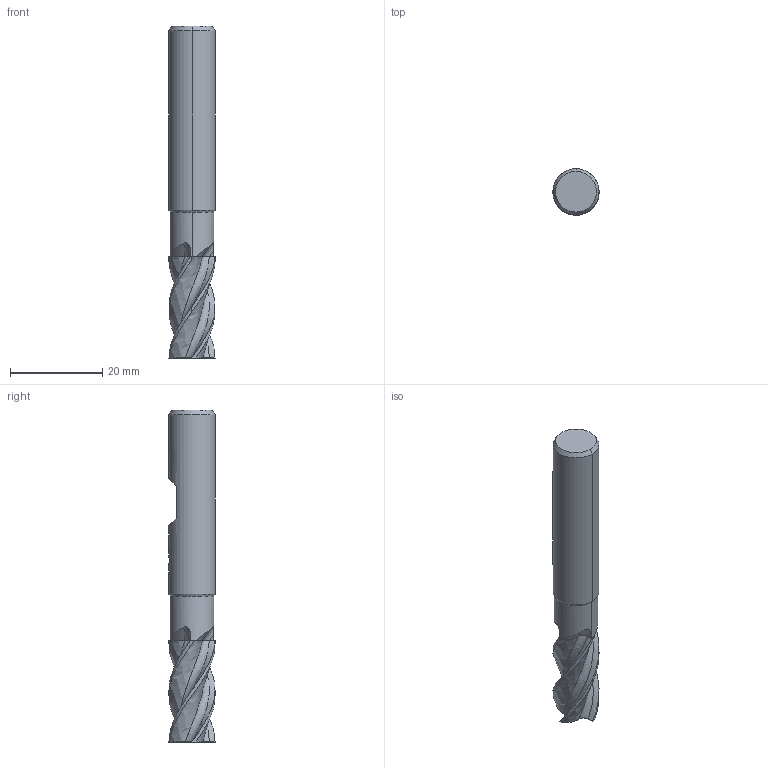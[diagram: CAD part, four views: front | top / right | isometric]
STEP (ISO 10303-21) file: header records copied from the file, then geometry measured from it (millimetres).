
FILE_DESCRIPTION(('no description'),'unknown implementation level');
FILE_NAME('solidytU8_RD_Na_bSQtJmaFW_PWsvoY_1.STP',' ',('CIMSOURCE GmbH'),('CADClick - KiM GmbH - www.kimweb.de'),'unknown preprocess','ACIS','unknown authorization');
FILE_SCHEMA(('automotive_design'));
Length unit declared in the file: millimetre
Products named in the file (2): NOCUT; CUT
Bounding box: 10 x 10 x 72 mm (x, y, z)
Volume: 4673.3 mm3; surface area: 3178.2 mm2
Topology: 2 solids, 2 shells, 125 faces, 358 edges, 236 vertices
Faces by surface type: bspline 48, plane 27, cone 22, cylinder 16, revolution 12
Entity records: 21218 total; most frequent: CARTESIAN_POINT 14399, STYLED_ITEM 721, PRESENTATION_STYLE_ASSIGNMENT 721, COLOUR_RGB 721, ORIENTED_EDGE 716, DIRECTION 392, EDGE_CURVE 358, CURVE_STYLE 358
